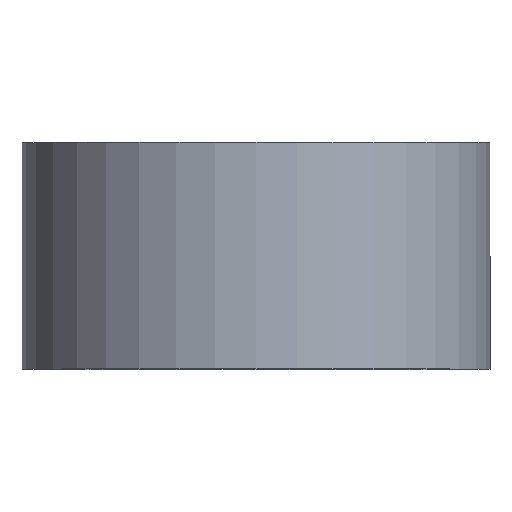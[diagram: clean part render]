
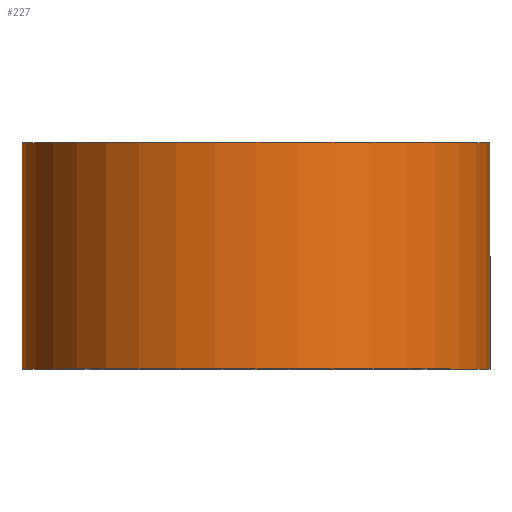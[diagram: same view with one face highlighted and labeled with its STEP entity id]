
A CAD part, top view. The second image highlights one B-rep face of the part: STEP entity #227.
In plain terms, the highlighted cylindrical face has radius 31 mm (diameter 62 mm), a partial arc.
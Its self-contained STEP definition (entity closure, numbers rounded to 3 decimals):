
#2 = DIRECTION ( 'NONE',  ( 0., 1., 0. ) ) ;
#5 = DIRECTION ( 'NONE',  ( -1., 0., 0. ) ) ;
#6 = VECTOR ( 'NONE', #163, 1000. ) ;
#23 = LINE ( 'NONE', #57, #6 ) ;
#27 = CARTESIAN_POINT ( 'NONE',  ( -31., 0., 0. ) ) ;
#30 = CARTESIAN_POINT ( 'NONE',  ( -31., 30., 0. ) ) ;
#37 = CARTESIAN_POINT ( 'NONE',  ( 0., 0., 0. ) ) ;
#38 = ORIENTED_EDGE ( 'NONE', *, *, #184, .T. ) ;
#39 = DIRECTION ( 'NONE',  ( 0., 1., 0. ) ) ;
#48 = ORIENTED_EDGE ( 'NONE', *, *, #258, .T. ) ;
#57 = CARTESIAN_POINT ( 'NONE',  ( 31., 0., 0. ) ) ;
#69 = LINE ( 'NONE', #27, #138 ) ;
#89 = AXIS2_PLACEMENT_3D ( 'NONE', #146, #39, #5 ) ;
#90 = VERTEX_POINT ( 'NONE', #96 ) ;
#96 = CARTESIAN_POINT ( 'NONE',  ( 31., 30., 0. ) ) ;
#104 = CIRCLE ( 'NONE', #281, 31. ) ;
#111 = AXIS2_PLACEMENT_3D ( 'NONE', #37, #144, #286 ) ;
#138 = VECTOR ( 'NONE', #259, 1000. ) ;
#141 = DIRECTION ( 'NONE',  ( -1., 0., 0. ) ) ;
#144 = DIRECTION ( 'NONE',  ( 0., 1., 0. ) ) ;
#146 = CARTESIAN_POINT ( 'NONE',  ( 0., 0., 0. ) ) ;
#150 = EDGE_CURVE ( 'NONE', #246, #90, #104, .T. ) ;
#152 = VERTEX_POINT ( 'NONE', #279 ) ;
#154 = EDGE_CURVE ( 'NONE', #187, #246, #69, .T. ) ;
#159 = CIRCLE ( 'NONE', #111, 31. ) ;
#163 = DIRECTION ( 'NONE',  ( 0., 1., 0. ) ) ;
#184 = EDGE_CURVE ( 'NONE', #152, #90, #23, .T. ) ;
#185 = CARTESIAN_POINT ( 'NONE',  ( -31., 0., 0. ) ) ;
#187 = VERTEX_POINT ( 'NONE', #185 ) ;
#224 = ORIENTED_EDGE ( 'NONE', *, *, #150, .F. ) ;
#225 = EDGE_LOOP ( 'NONE', ( #48, #38, #224, #234 ) ) ;
#227 = ADVANCED_FACE ( 'NONE', ( #292 ), #266, .T. ) ;
#234 = ORIENTED_EDGE ( 'NONE', *, *, #154, .F. ) ;
#246 = VERTEX_POINT ( 'NONE', #30 ) ;
#257 = CARTESIAN_POINT ( 'NONE',  ( 0., 30., 0. ) ) ;
#258 = EDGE_CURVE ( 'NONE', #187, #152, #159, .T. ) ;
#259 = DIRECTION ( 'NONE',  ( 0., 1., 0. ) ) ;
#266 = CYLINDRICAL_SURFACE ( 'NONE', #89, 31. ) ;
#279 = CARTESIAN_POINT ( 'NONE',  ( 31., 0., 0. ) ) ;
#281 = AXIS2_PLACEMENT_3D ( 'NONE', #257, #2, #141 ) ;
#286 = DIRECTION ( 'NONE',  ( -1., 0., 0. ) ) ;
#292 = FACE_OUTER_BOUND ( 'NONE', #225, .T. ) ;
